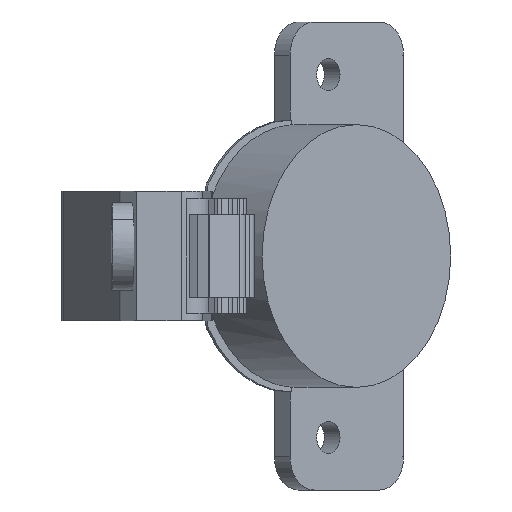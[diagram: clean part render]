
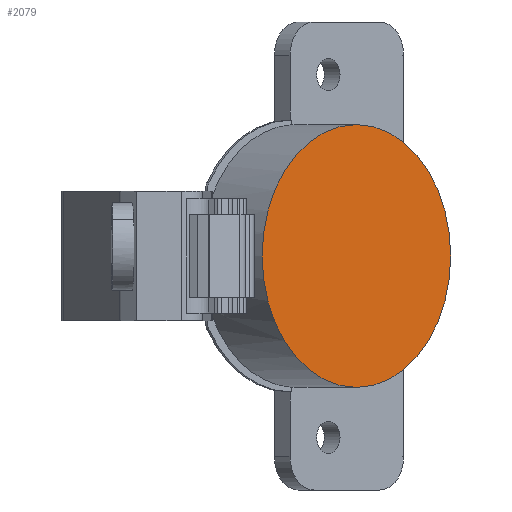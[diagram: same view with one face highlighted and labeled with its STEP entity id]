
A CAD part, left-side view. The second image highlights one B-rep face of the part: STEP entity #2079.
In plain terms, the highlighted planar face has unit normal (-0.718, -0.696, 0).
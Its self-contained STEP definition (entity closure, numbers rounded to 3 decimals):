
#14 = ORIENTED_EDGE ( 'NONE', *, *, #2052, .T. ) ;
#504 = DIRECTION ( 'NONE',  ( -0.718, -0.696, 0. ) ) ;
#588 = AXIS2_PLACEMENT_3D ( 'NONE', #5366, #1928, #3677 ) ;
#631 = DIRECTION ( 'NONE',  ( 0.696, -0.718, 0. ) ) ;
#896 = CARTESIAN_POINT ( 'NONE',  ( 8.381, -19.083, 0. ) ) ;
#917 = CARTESIAN_POINT ( 'NONE',  ( 8.381, -19.083, -17.4 ) ) ;
#939 = CIRCLE ( 'NONE', #4358, 17.4 ) ;
#1739 = VERTEX_POINT ( 'NONE', #5007 ) ;
#1928 = DIRECTION ( 'NONE',  ( 0.718, 0.696, 0. ) ) ;
#2052 = EDGE_CURVE ( 'NONE', #4195, #1739, #939, .T. ) ;
#2079 = ADVANCED_FACE ( 'NONE', ( #4599 ), #2407, .F. ) ;
#2407 = PLANE ( 'NONE',  #588 ) ;
#2876 = CIRCLE ( 'NONE', #3776, 17.4 ) ;
#3033 = DIRECTION ( 'NONE',  ( 0.696, -0.718, 0. ) ) ;
#3090 = EDGE_LOOP ( 'NONE', ( #4278, #14 ) ) ;
#3281 = CARTESIAN_POINT ( 'NONE',  ( 8.381, -19.083, 0. ) ) ;
#3677 = DIRECTION ( 'NONE',  ( 0., 0., 1. ) ) ;
#3717 = EDGE_CURVE ( 'NONE', #1739, #4195, #2876, .T. ) ;
#3776 = AXIS2_PLACEMENT_3D ( 'NONE', #896, #504, #3033 ) ;
#4195 = VERTEX_POINT ( 'NONE', #917 ) ;
#4278 = ORIENTED_EDGE ( 'NONE', *, *, #3717, .T. ) ;
#4358 = AXIS2_PLACEMENT_3D ( 'NONE', #3281, #5000, #631 ) ;
#4599 = FACE_OUTER_BOUND ( 'NONE', #3090, .T. ) ;
#5000 = DIRECTION ( 'NONE',  ( -0.718, -0.696, 0. ) ) ;
#5007 = CARTESIAN_POINT ( 'NONE',  ( 8.381, -19.083, 17.4 ) ) ;
#5366 = CARTESIAN_POINT ( 'NONE',  ( 16.018, -26.954, -7.7 ) ) ;
